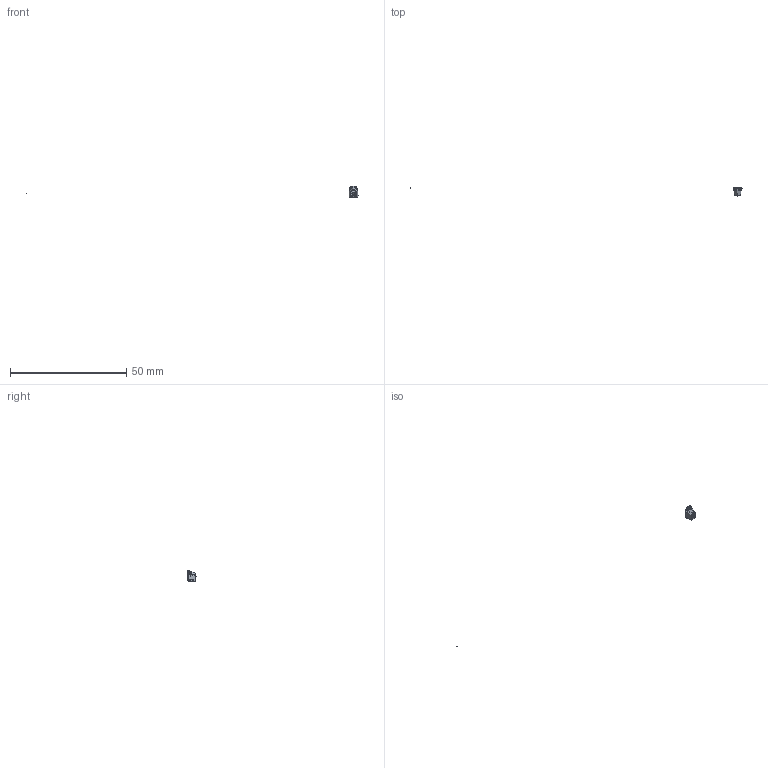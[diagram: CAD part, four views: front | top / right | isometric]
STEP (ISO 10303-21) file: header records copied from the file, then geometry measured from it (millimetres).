
FILE_DESCRIPTION(/* description */ (''),/* implementation_level */ '2;1');
FILE_NAME(/* name */ 'CMVCSPE00000',/* time_stamp */ '2018-12-17T11:53:48+01:00',/* author */ (''),/* organization */ (''),/* preprocessor_version */ 'ST-DEVELOPER v15',/* originating_system */ '',/* authorisation */ '');
FILE_SCHEMA (('AUTOMOTIVE_DESIGN'));
Length unit declared in the file: centimetre
Products named in the file (1): Document
Bounding box: 142.67 x 3.75 x 5.15 mm (x, y, z)
Topology: 0 solids, 16 shells, 779 faces, 2362 edges, 1285 vertices
Faces by surface type: bspline 685, plane 94
Entity records: 75041 total; most frequent: CARTESIAN_POINT 63854, ORIENTED_EDGE 4101, EDGE_CURVE 2386, VERTEX_POINT 1283, EDGE_LOOP 789, ADVANCED_FACE 755, FACE_OUTER_BOUND 755, B_SPLINE_CURVE_WITH_KNOTS 718
